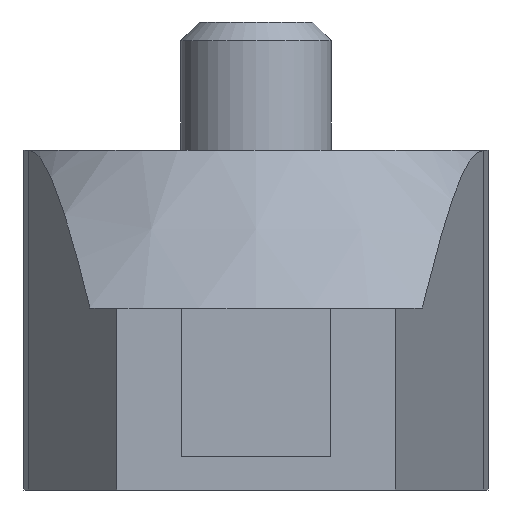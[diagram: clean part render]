
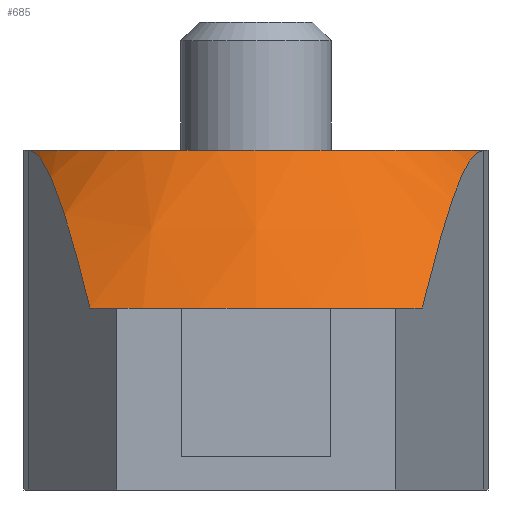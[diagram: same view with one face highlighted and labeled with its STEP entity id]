
A CAD part, front view. The second image highlights one B-rep face of the part: STEP entity #685.
In plain terms, the highlighted conical face has half-angle 45 degrees and reference radius 21 mm.
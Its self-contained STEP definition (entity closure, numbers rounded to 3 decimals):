
#12=CONICAL_SURFACE('',#753,21.,0.785);
#21=B_SPLINE_CURVE_WITH_KNOTS('',3,(#1047,#1048,#1049,#1050,#1051,#1052,#1053),.UNSPECIFIED.,.F.,.F.,(4,1,1,1,4),(0.,0.005,0.01,0.014,0.019),.UNSPECIFIED.);
#22=B_SPLINE_CURVE_WITH_KNOTS('',3,(#1065,#1066,#1067,#1068,#1069,#1070,#1071,#1072),.UNSPECIFIED.,.F.,.F.,(4,1,1,1,1,4),(0.,0.002,0.005,0.01,0.014,0.019),.UNSPECIFIED.);
#23=CIRCLE('',#703,21.);
#37=CIRCLE('',#748,12.5);
#209=ORIENTED_EDGE('',*,*,#275,.F.);
#210=ORIENTED_EDGE('',*,*,#304,.T.);
#211=ORIENTED_EDGE('',*,*,#269,.F.);
#212=ORIENTED_EDGE('',*,*,#219,.F.);
#219=EDGE_CURVE('',#308,#309,#23,.F.);
#269=EDGE_CURVE('',#309,#350,#21,.T.);
#275=EDGE_CURVE('',#351,#308,#22,.T.);
#304=EDGE_CURVE('',#351,#350,#37,.T.);
#308=VERTEX_POINT('',#949);
#309=VERTEX_POINT('',#951);
#350=VERTEX_POINT('',#1054);
#351=VERTEX_POINT('',#1058);
#558=EDGE_LOOP('',(#209,#210,#211,#212));
#612=FACE_BOUND('',#558,.T.);
#685=ADVANCED_FACE('',(#612),#12,.T.);
#703=AXIS2_PLACEMENT_3D('',#950,#764,#765);
#748=AXIS2_PLACEMENT_3D('',#1138,#923,#924);
#753=AXIS2_PLACEMENT_3D('',#1143,#933,#934);
#764=DIRECTION('',(0.,0.,1.));
#765=DIRECTION('',(1.,0.,0.));
#923=DIRECTION('',(0.,0.,-1.));
#924=DIRECTION('',(-1.,0.,0.));
#933=DIRECTION('',(0.,0.,-1.));
#934=DIRECTION('',(-1.,0.,0.));
#949=CARTESIAN_POINT('',(60.196,54.554,47.05));
#950=CARTESIAN_POINT('',(51.244,73.55,47.05));
#951=CARTESIAN_POINT('',(42.296,54.551,47.05));
#1047=CARTESIAN_POINT('',(42.296,54.551,47.05));
#1048=CARTESIAN_POINT('',(42.051,55.778,48.055));
#1049=CARTESIAN_POINT('',(41.554,58.261,50.014));
#1050=CARTESIAN_POINT('',(40.771,62.178,52.704));
#1051=CARTESIAN_POINT('',(39.929,66.388,54.885));
#1052=CARTESIAN_POINT('',(39.304,69.512,55.55));
#1053=CARTESIAN_POINT('',(38.987,71.098,55.55));
#1054=CARTESIAN_POINT('',(38.987,71.098,55.55));
#1058=CARTESIAN_POINT('',(63.502,71.101,55.55));
#1065=CARTESIAN_POINT('',(63.502,71.101,55.55));
#1066=CARTESIAN_POINT('',(63.342,70.304,55.55));
#1067=CARTESIAN_POINT('',(63.03,68.739,55.392));
#1068=CARTESIAN_POINT('',(62.418,65.675,54.513));
#1069=CARTESIAN_POINT('',(61.718,62.174,52.7));
#1070=CARTESIAN_POINT('',(60.939,58.273,50.021));
#1071=CARTESIAN_POINT('',(60.441,55.78,48.055));
#1072=CARTESIAN_POINT('',(60.196,54.554,47.05));
#1138=CARTESIAN_POINT('',(51.244,73.55,55.55));
#1143=CARTESIAN_POINT('',(51.244,73.55,47.05));
